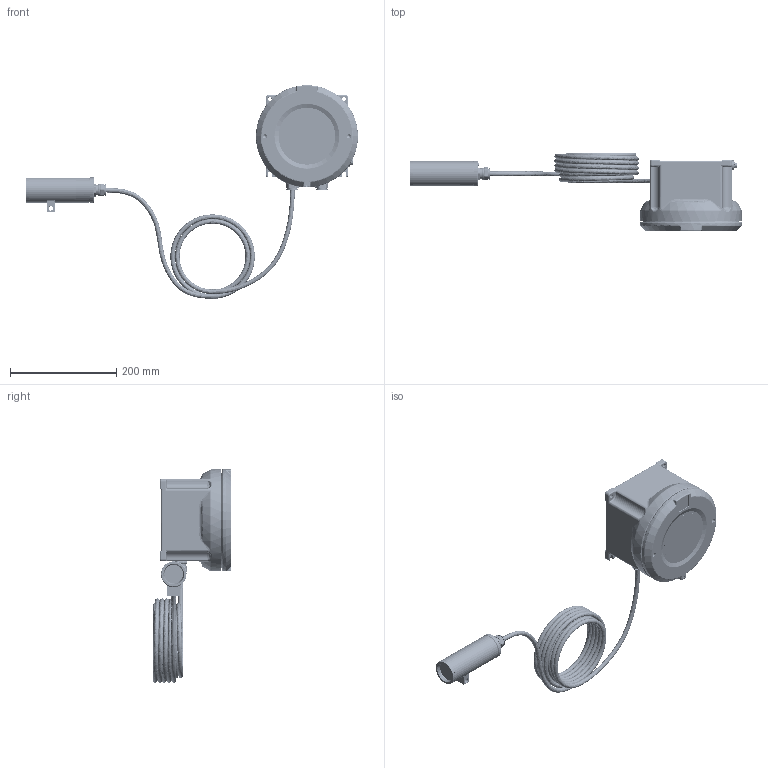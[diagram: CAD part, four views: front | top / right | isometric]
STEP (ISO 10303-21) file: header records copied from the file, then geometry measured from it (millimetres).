
FILE_DESCRIPTION(/* description */ (''),/* implementation_level */ '2;1');
FILE_NAME(/* name */ 'C:\Users\Sebastian Weber\Desktop\ExCam IPP1275_Full Mount Assembly_rev.01.stp',/* time_stamp */ '2020-09-11T16:02:37+02:00',/* author */ ('Sebastian Weber'),/* organization */ (''),/* preprocessor_version */ 'ST-DEVELOPER v17',/* originating_system */ 'Autodesk Inventor 2019',/* authorisation */ '');
FILE_SCHEMA (('AUTOMOTIVE_DESIGN { 1 0 10303 214 3 1 1 }'));
Products named in the file (90): ExCam IPP1275_Full Mount Assembly_rev.00; ExCam XF FA4115 - T08-VA0.1.K1.BOR-N.N-012.N-P_rev.00; T07_VA0.1.K1.BOR_rev.00_vers.03; T07_VA0.1.R_mit Nocke_rev.00; T07_VA0.1.R_mit Nocke_rev.00_1; T07_VA0.4.R_bare_(BAU)_rev.02; VA1.2.R_Nocke (M8)_rev.00; T07_VA0.x.K1_bare_rev.00; T07_VA0.x Gylon Dichtung_rev.00; T07_VA0.x.BOR_compound; Silikonpufferring_rev.03; Silikonpassring_rev.01; Borosilikatglas DIN 7080-1_40x12; T07_VA0.x.BOR_Passring_bare_rev.05; Erdungsschraube_VA0.x; DIN 84 - M3 x 4; DIN 433 - 3,2; VA0.x Gehäuseschraubengarnitur; ISO 4762  - M3 x 10; DIN 128 - A3; DIN 913 - M3 x 3; ISO 7380-1 - M3 x 6; ExCam XF FA4115_Vibrationsentkoppler_rev.02; AXIS_FA4115_sensor unit; AXIS_FA4115_housing; 1470758_M6; AXIS_FA4115_sensor PCB; IS 7483 - M2 x 6; ExCam XF FA4115_VA0.1_Montageadapter_rev.06; zx64-b-5s-unit_31_; STP390300080; Typenschild_ExCam IPP1280_T08-VA0.1.K1.GER-N.N-005.N-x; ExConnection Rail IPP1275_T04.2-D-P12-PoE 100BAST TX_rev.00; 8265_02-__0__(bearbeitet); 8265_9_004_002_6_8265_9_004_002_3_(bearbeitet); 501_619_0_M 6 x 12; 128_M 6; 9021_6,4; 8265_9_005_002_6_3d export; 914_M 5 x 16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
Assembly tree (116 placements, depth 5):
  ExCam IPP1275_Full Mount Assembly_rev.00
    ExCam XF FA4115 - T08-VA0.1.K1.BOR-N.N-012.N-P_rev.00
      T07_VA0.1.K1.BOR_rev.00_vers.03
        T07_VA0.1.R_mit Nocke_rev.00
          T07_VA0.1.R_mit Nocke_rev.00_1
          T07_VA0.4.R_bare_(BAU)_rev.02
          VA1.2.R_Nocke (M8)_rev.00
        T07_VA0.x.K1_bare_rev.00
        T07_VA0.x Gylon Dichtung_rev.00
        T07_VA0.x.BOR_compound
        Silikonpufferring_rev.03
        Silikonpassring_rev.01
        Borosilikatglas DIN 7080-1_40x12
        T07_VA0.x.BOR_Passring_bare_rev.05
        Erdungsschraube_VA0.x
          DIN 84 - M3 x 4
          DIN 128 - A3
          DIN 433 - 3,2
        VA0.x Gehäuseschraubengarnitur  x6
          ISO 4762  - M3 x 10
          DIN 128 - A3
        DIN 913 - M3 x 3  x3
      ISO 7380-1 - M3 x 6  x3
      ExCam XF FA4115_Vibrationsentkoppler_rev.02
      KLE ADE 1F Typ5 M20
        KLE ADE 1F Typ5 M20_1
        KLE Gummieinsatz M20
      AXIS_FA4115_sensor unit
        AXIS_FA4115_housing
        1470758_M6
        AXIS_FA4115_sensor PCB
      IS 7483 - M2 x 6  x2
      ExCam XF FA4115_VA0.1_Montageadapter_rev.06
      zx64-b-5s-unit_31_
      STP390300080  x2
      Typenschild_ExCam IPP1280_T08-VA0.1.K1.GER-N.N-005.N-x
    ExConnection Rail IPP1275_T04.2-D-P12-PoE 100BAST TX_rev.00
      8265_02-__0__(bearbeitet)
        8265_9_004_002_6_8265_9_004_002_3_(bearbeitet)
        501_619_0_M 6 x 12  x2
        9021_6,4  x4
        128_M 6  x2
        8265_9_005_002_6_3d export
        914_M 5 x 16
        O-Ring Dichtung VMQ Gr.2
      KLE ADE 1F Typ5 M20  x2
        KLE ADE 1F Typ5 M20_1
        KLE Gummieinsatz M20
      AXIS P12 MkII
        1503156
        1508675
        1509145
        1132191
        1538030_ASM
          1546254
          1538028
        1471782_PCBASS_ASM
          1471783_PCB
          1471783_PCBASS_151207_SW2
      RJ45 Body^RJ45_00  x2
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Bounding box: 624.3 x 147.75 x 401.65 mm (x, y, z)
Volume: 2010174.6 mm3; surface area: 674860.5 mm2
Topology: 113 solids, 122 shells, 20708 faces, 55551 edges, 35685 vertices
Faces by surface type: plane 12939, cylinder 3560, bspline 2872, torus 645, cone 445, sphere 247
Full cylindrical faces by diameter (mm): 0.2 x28, 0.25 x2, 0.3 x1, 0.6 x2, 0.65 x2, 0.75 x5, 0.8 x8, 0.9 x10, 1 x5, 1.1 x3, 1.16 x7, 1.2 x3, 1.27 x21, 1.5 x3, 1.567 x2, 1.6 x3, 1.7 x2, 1.783 x2, 2 x14, 2.09 x10, 2.2 x2, 2.3 x1, 2.341 x2, 2.4 x2, 2.459 x16, 2.5 x14, 2.6 x8, 2.729 x1, 2.8 x3, 2.94 x2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
Entity records: 718835 total; most frequent: CARTESIAN_POINT 260374, ORIENTED_EDGE 99068, DIRECTION 86399, EDGE_CURVE 49534, LINE 36037, VECTOR 36037, VERTEX_POINT 31954, AXIS2_PLACEMENT_3D 25181
